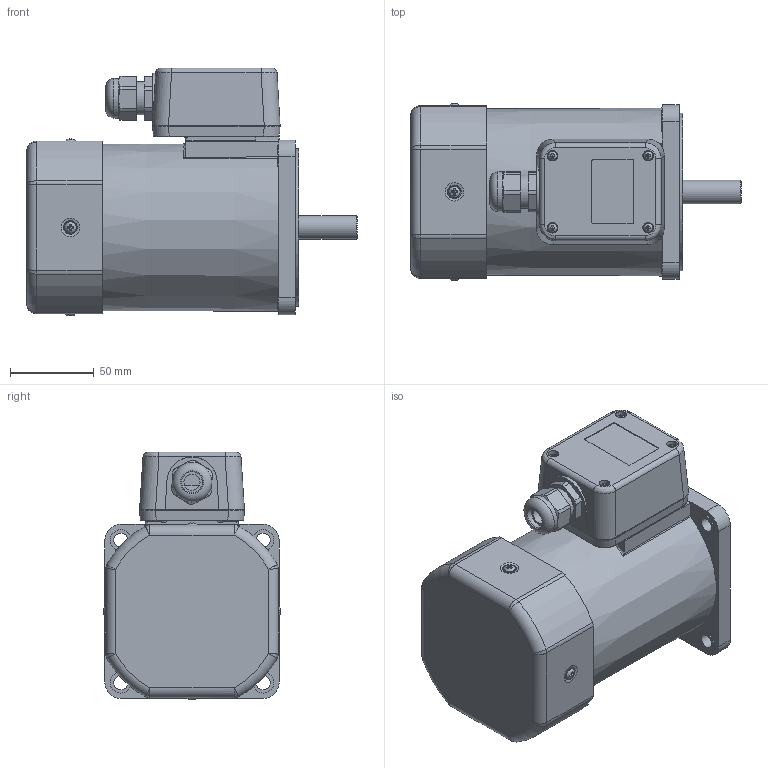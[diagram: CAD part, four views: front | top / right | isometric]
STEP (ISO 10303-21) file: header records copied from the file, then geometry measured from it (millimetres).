
FILE_DESCRIPTION((''),'2;1');
FILE_NAME('D:\작업\흐힠~\3D 모델링\S10I200S_-T.stp','2014-04-04T18:56:23',('jy-jung'),(''),'Autodesk Inventor 2011','Autodesk Inventor 2011','');
FILE_SCHEMA(('AUTOMOTIVE_DESIGN { 1 0 10303 214 1 1 1 1 }'));
Length unit declared in the file: millimetre
Products named in the file (1): S10I200D_-T.0001
Bounding box: 197 x 105.57 x 147.78 mm (x, y, z)
Volume: 1360892.9 mm3; surface area: 138619.8 mm2
Topology: 1 solids, 10 shells, 529 faces, 1310 edges, 820 vertices
Faces by surface type: plane 258, cylinder 147, bspline 61, torus 40, cone 23
Full cylindrical faces by diameter (mm): 2.55 x2, 4 x4, 5 x4, 5.6 x4, 6.3 x4, 7 x4, 8.5 x4, 12.5 x5, 14 x1, 15 x1, 20 x2, 21 x1, 23.6 x1, 43 x1, 94 x1, 98 x1
Entity records: 18249 total; most frequent: CARTESIAN_POINT 6163, ORIENTED_EDGE 2310, DIRECTION 2261, EDGE_CURVE 1155, AXIS2_PLACEMENT_3D 830, VERTEX_POINT 781, EDGE_LOOP 678, VECTOR 601
